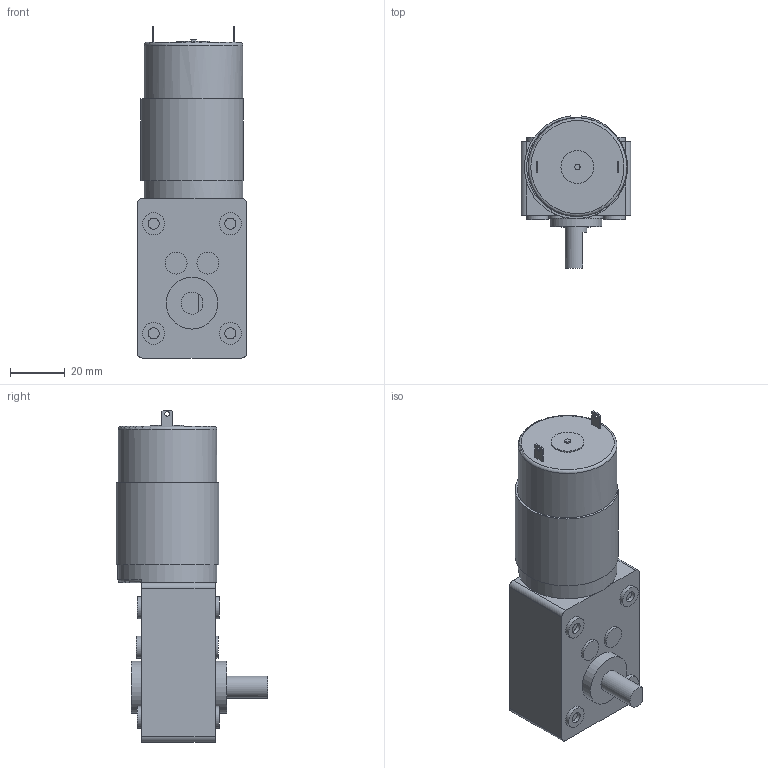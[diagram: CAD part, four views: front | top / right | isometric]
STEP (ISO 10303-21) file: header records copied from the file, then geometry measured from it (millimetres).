
FILE_DESCRIPTION(/* description */ (''),/* implementation_level */ '2;1');
FILE_NAME(/* name */ 'C:\Users\User\Google Drive\3D\Kingpin-G3-Dc-Motor-JSumo.stp',/* time_stamp */ '2026-09-12T14:44:41+03:00',/* author */ ('User'),/* organization */ (''),/* preprocessor_version */ 'ST-DEVELOPER v16.5',/* originating_system */ 'Autodesk Inventor 2017',/* authorisation */ '');
FILE_SCHEMA (('AUTOMOTIVE_DESIGN { 1 0 10303 214 3 1 1 }'));
Length unit declared in the file: millimetre
Products named in the file (1): motor
Bounding box: 40 x 55.39 x 121.15 mm (x, y, z)
Volume: 126506.4 mm3; surface area: 21919.7 mm2
Topology: 1 solids, 1 shells, 158 faces, 360 edges, 237 vertices
Faces by surface type: plane 93, cylinder 35, bspline 28, torus 2
Full cylindrical faces by diameter (mm): 1.7 x2, 1.96 x1, 4 x8, 8 x13, 12 x1, 18.9 x2, 36 x1
Entity records: 4688 total; most frequent: CARTESIAN_POINT 1187, ORIENTED_EDGE 660, DIRECTION 613, EDGE_CURVE 329, VERTEX_POINT 235, EDGE_LOOP 225, AXIS2_PLACEMENT_3D 212, LINE 189
